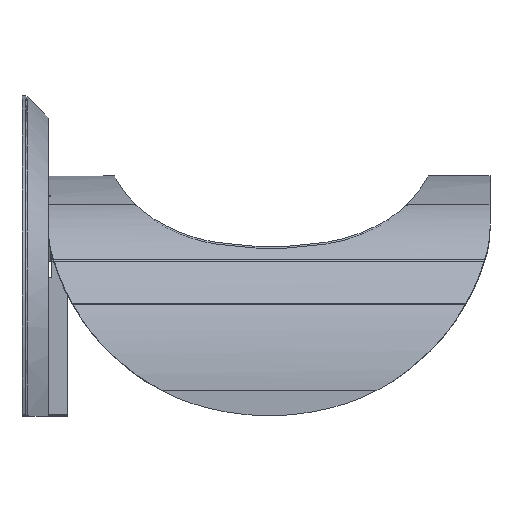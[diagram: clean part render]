
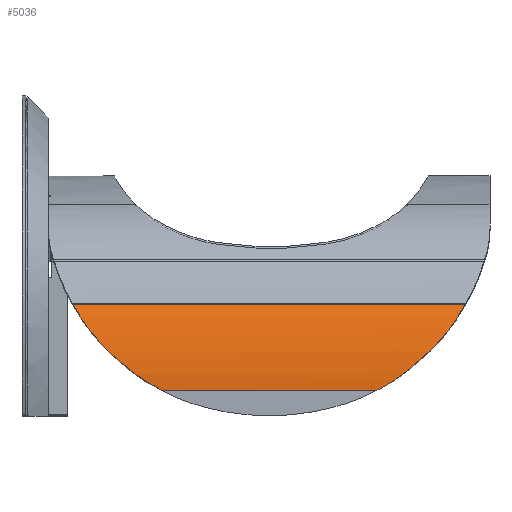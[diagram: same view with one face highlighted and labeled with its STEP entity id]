
A CAD part, left-side view. The second image highlights one B-rep face of the part: STEP entity #5036.
In plain terms, the highlighted cylindrical face has radius 320.879 mm (diameter 641.758 mm), a partial arc.
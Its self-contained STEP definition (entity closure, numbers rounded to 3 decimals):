
#303 = CARTESIAN_POINT ( 'NONE',  ( -465.869, 68.182, 134.174 ) ) ;
#331 = CARTESIAN_POINT ( 'NONE',  ( -478.789, 561.088, 67.916 ) ) ;
#451 = CARTESIAN_POINT ( 'NONE',  ( -471.145, 613.037, 115.405 ) ) ;
#500 = CARTESIAN_POINT ( 'NONE',  ( -465.869, 68.182, 134.174 ) ) ;
#517 = CARTESIAN_POINT ( 'NONE',  ( -479.782, 538.149, 52.237 ) ) ;
#595 = VERTEX_POINT ( 'NONE', #791 ) ;
#708 = CARTESIAN_POINT ( 'NONE',  ( -472.094, 87.566, 110.936 ) ) ;
#775 = CARTESIAN_POINT ( 'NONE',  ( -473.942, 96.018, 102.095 ) ) ;
#791 = CARTESIAN_POINT ( 'NONE',  ( -450., 655.36, 175.472 ) ) ;
#984 = VERTEX_POINT ( 'NONE', #10990 ) ;
#1154 = B_SPLINE_CURVE_WITH_KNOTS ( 'NONE', 3,
 ( #10839, #7798, #11650, #9020, #6856, #500 ),
 .UNSPECIFIED., .F., .F.,
 ( 4, 2, 4 ),
 ( 0., 0.026, 0.052 ),
 .UNSPECIFIED. ) ;
#1262 = CARTESIAN_POINT ( 'NONE',  ( -474.775, 596.129, 97.827 ) ) ;
#1310 = FACE_OUTER_BOUND ( 'NONE', #11383, .T. ) ;
#1319 = CARTESIAN_POINT ( 'NONE',  ( -480., 522.14, 42.874 ) ) ;
#1378 = CARTESIAN_POINT ( 'NONE',  ( -478.269, 568.451, 73.494 ) ) ;
#1437 = CARTESIAN_POINT ( 'NONE',  ( -450., 655.36, 175.472 ) ) ;
#1473 = CARTESIAN_POINT ( 'NONE',  ( -450., 724.5, 175.472 ) ) ;
#1499 = ORIENTED_EDGE ( 'NONE', *, *, #4903, .T. ) ;
#1569 = CARTESIAN_POINT ( 'NONE',  ( -467.336, 71.833, 129.398 ) ) ;
#1637 = CARTESIAN_POINT ( 'NONE',  ( -471.037, 83.496, 115.462 ) ) ;
#1927 = EDGE_CURVE ( 'NONE', #595, #3346, #11951, .T. ) ;
#2190 = CARTESIAN_POINT ( 'NONE',  ( -465.869, 628.182, 134.174 ) ) ;
#2373 = CARTESIAN_POINT ( 'NONE',  ( -456.204, 647.193, 161.489 ) ) ;
#2444 = CARTESIAN_POINT ( 'NONE',  ( -478.967, 137.818, 65.993 ) ) ;
#2511 = CARTESIAN_POINT ( 'NONE',  ( -465.869, 68.182, 134.174 ) ) ;
#2591 = AXIS2_PLACEMENT_3D ( 'NONE', #3184, #5121, #9151 ) ;
#2795 = ORIENTED_EDGE ( 'NONE', *, *, #7352, .F. ) ;
#2869 = VECTOR ( 'NONE', #10951, 1000. ) ;
#3061 = ORIENTED_EDGE ( 'NONE', *, *, #8321, .F. ) ;
#3073 = CARTESIAN_POINT ( 'NONE',  ( -479.961, 527.539, 45.9 ) ) ;
#3184 = CARTESIAN_POINT ( 'NONE',  ( -159.121, 724.5, 40. ) ) ;
#3192 = CARTESIAN_POINT ( 'NONE',  ( -468.803, 620.879, 124.618 ) ) ;
#3314 = CARTESIAN_POINT ( 'NONE',  ( -461.481, 638.127, 147.686 ) ) ;
#3346 = VERTEX_POINT ( 'NONE', #5171 ) ;
#3388 = VECTOR ( 'NONE', #11364, 1000. ) ;
#3982 = EDGE_CURVE ( 'NONE', #3346, #4487, #1154, .T. ) ;
#4487 = VERTEX_POINT ( 'NONE', #303 ) ;
#4798 = B_SPLINE_CURVE_WITH_KNOTS ( 'NONE', 3,
 ( #2190, #10853, #3314, #2373, #6178, #1437 ),
 .UNSPECIFIED., .F., .F.,
 ( 4, 2, 4 ),
 ( 0., 0.026, 0.052 ),
 .UNSPECIFIED. ) ;
#4903 = EDGE_CURVE ( 'NONE', #984, #9102, #10244, .T. ) ;
#5036 = ADVANCED_FACE ( 'NONE', ( #1310 ), #11716, .T. ) ;
#5121 = DIRECTION ( 'NONE',  ( 0., -1., 0. ) ) ;
#5171 = CARTESIAN_POINT ( 'NONE',  ( -450., 41.005, 175.472 ) ) ;
#5192 = CARTESIAN_POINT ( 'NONE',  ( -465.869, 628.182, 134.174 ) ) ;
#5323 = CARTESIAN_POINT ( 'NONE',  ( -479.847, 158.164, 52.07 ) ) ;
#5517 = CARTESIAN_POINT ( 'NONE',  ( -468.659, 75.63, 124.691 ) ) ;
#5666 = ORIENTED_EDGE ( 'NONE', *, *, #3982, .F. ) ;
#5940 = CARTESIAN_POINT ( 'NONE',  ( -479.642, 543.363, 55.549 ) ) ;
#6117 = CARTESIAN_POINT ( 'NONE',  ( -479.215, 553.588, 62.498 ) ) ;
#6178 = CARTESIAN_POINT ( 'NONE',  ( -453.262, 651.427, 168.468 ) ) ;
#6856 = CARTESIAN_POINT ( 'NONE',  ( -463.815, 63.067, 140.866 ) ) ;
#6870 = CARTESIAN_POINT ( 'NONE',  ( -473.956, 600.46, 102.152 ) ) ;
#6994 = CARTESIAN_POINT ( 'NONE',  ( -476.814, 582.622, 85.285 ) ) ;
#7190 = CARTESIAN_POINT ( 'NONE',  ( -475.147, 102.548, 95.638 ) ) ;
#7352 = EDGE_CURVE ( 'NONE', #4487, #9102, #8235, .T. ) ;
#7387 = CARTESIAN_POINT ( 'NONE',  ( -480., 168.749, 45.747 ) ) ;
#7589 = CARTESIAN_POINT ( 'NONE',  ( -480., 179.703, 40. ) ) ;
#7798 = CARTESIAN_POINT ( 'NONE',  ( -453.262, 44.937, 168.468 ) ) ;
#8121 = CARTESIAN_POINT ( 'NONE',  ( -476.214, 109.225, 89.328 ) ) ;
#8235 = B_SPLINE_CURVE_WITH_KNOTS ( 'NONE', 3,
 ( #2511, #1569, #5517, #1637, #708, #9103, #775, #8311, #7190, #8121, #10983, #12046, #11923, #2444, #11107, #5323, #7387, #12108 ),
 .UNSPECIFIED., .F., .F.,
 ( 4, 2, 2, 2, 2, 2, 2, 2, 4 ),
 ( 0., 0.019, 0.037, 0.046, 0.056, 0.074, 0.093, 0.111, 0.148 ),
 .UNSPECIFIED. ) ;
#8253 = EDGE_CURVE ( 'NONE', #984, #11713, #10741, .T. ) ;
#8311 = CARTESIAN_POINT ( 'NONE',  ( -474.764, 100.351, 97.771 ) ) ;
#8321 = EDGE_CURVE ( 'NONE', #11713, #595, #4798, .T. ) ;
#9020 = CARTESIAN_POINT ( 'NONE',  ( -461.481, 58.238, 147.685 ) ) ;
#9102 = VERTEX_POINT ( 'NONE', #7589 ) ;
#9103 = CARTESIAN_POINT ( 'NONE',  ( -473.502, 93.879, 104.288 ) ) ;
#9151 = DIRECTION ( 'NONE',  ( 0., 0., -1. ) ) ;
#9367 = CARTESIAN_POINT ( 'NONE',  ( -480., 724.5, 40. ) ) ;
#9404 = ORIENTED_EDGE ( 'NONE', *, *, #1927, .F. ) ;
#9806 = CARTESIAN_POINT ( 'NONE',  ( -479.334, 551.048, 60.734 ) ) ;
#9866 = CARTESIAN_POINT ( 'NONE',  ( -478.943, 558.607, 66.089 ) ) ;
#9925 = CARTESIAN_POINT ( 'NONE',  ( -476.206, 587.199, 89.382 ) ) ;
#9972 = ORIENTED_EDGE ( 'NONE', *, *, #8253, .F. ) ;
#10244 = LINE ( 'NONE', #9367, #3388 ) ;
#10741 = B_SPLINE_CURVE_WITH_KNOTS ( 'NONE', 3,
 ( #11854, #1319, #3073, #517, #5940, #9806, #6117, #9866, #331, #1378, #10913, #6994, #9925, #1262, #6870, #451, #3192, #5192 ),
 .UNSPECIFIED., .F., .F.,
 ( 4, 2, 2, 2, 2, 2, 2, 2, 4 ),
 ( 0., 0.019, 0.037, 0.046, 0.056, 0.074, 0.093, 0.111, 0.148 ),
 .UNSPECIFIED. ) ;
#10839 = CARTESIAN_POINT ( 'NONE',  ( -450., 41.005, 175.472 ) ) ;
#10851 = CARTESIAN_POINT ( 'NONE',  ( -465.869, 628.182, 134.174 ) ) ;
#10853 = CARTESIAN_POINT ( 'NONE',  ( -463.815, 633.297, 140.866 ) ) ;
#10913 = CARTESIAN_POINT ( 'NONE',  ( -477.845, 573.248, 77.341 ) ) ;
#10951 = DIRECTION ( 'NONE',  ( 0., -1., 0. ) ) ;
#10983 = CARTESIAN_POINT ( 'NONE',  ( -476.82, 113.794, 85.239 ) ) ;
#10990 = CARTESIAN_POINT ( 'NONE',  ( -480., 516.662, 40. ) ) ;
#11107 = CARTESIAN_POINT ( 'NONE',  ( -479.235, 142.837, 62.405 ) ) ;
#11364 = DIRECTION ( 'NONE',  ( 0., -1., 0. ) ) ;
#11383 = EDGE_LOOP ( 'NONE', ( #3061, #9972, #1499, #2795, #5666, #9404 ) ) ;
#11650 = CARTESIAN_POINT ( 'NONE',  ( -456.204, 49.171, 161.489 ) ) ;
#11713 = VERTEX_POINT ( 'NONE', #10851 ) ;
#11716 = CYLINDRICAL_SURFACE ( 'NONE', #2591, 320.879 ) ;
#11854 = CARTESIAN_POINT ( 'NONE',  ( -480., 516.662, 40. ) ) ;
#11923 = CARTESIAN_POINT ( 'NONE',  ( -478.274, 127.972, 73.449 ) ) ;
#11951 = LINE ( 'NONE', #1473, #2869 ) ;
#12046 = CARTESIAN_POINT ( 'NONE',  ( -477.85, 123.167, 77.299 ) ) ;
#12108 = CARTESIAN_POINT ( 'NONE',  ( -480., 179.703, 40. ) ) ;
